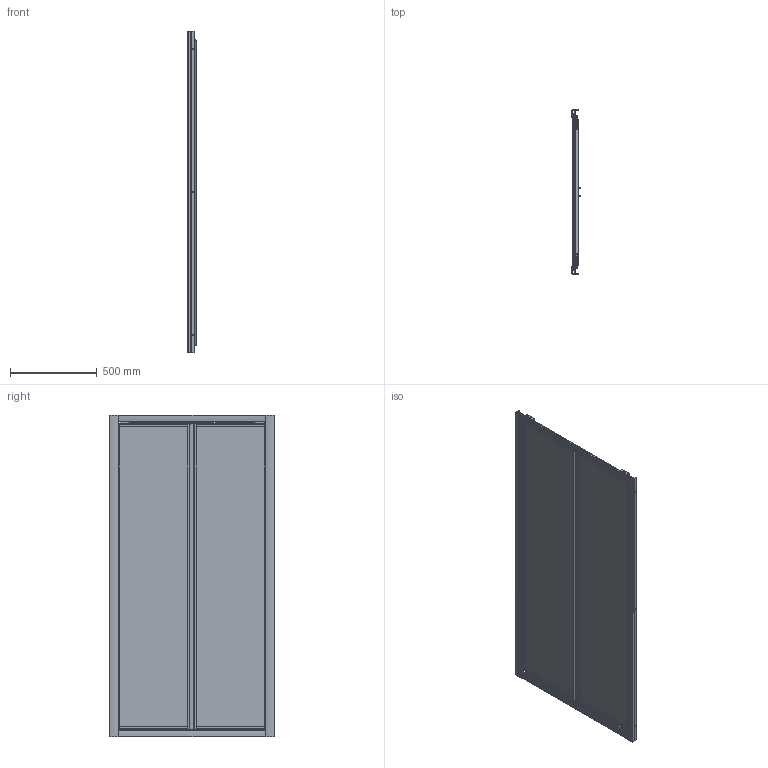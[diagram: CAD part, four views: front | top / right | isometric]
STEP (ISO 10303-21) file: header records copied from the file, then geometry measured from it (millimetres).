
FILE_DESCRIPTION(/* description */ (''),/* implementation_level */ '2;1');
FILE_NAME(/* name */ 'C:\Users\benassi\Desktop\dwg 3D\America tre 2019\America 3 saloon 95-103.stp',/* time_stamp */ '2018-07-17T14:26:56+02:00',/* author */ ('benassi'),/* organization */ (''),/* preprocessor_version */ 'ST-DEVELOPER v16.1',/* originating_system */ 'Autodesk Inventor 2016',/* authorisation */ '');
FILE_SCHEMA (('AUTOMOTIVE_DESIGN { 1 0 10303 214 3 1 1 }'));
Length unit declared in the file: millimetre
Products named in the file (25): 10000021304; 10000008458; 10000008457; 10000004703_IPT_000; 10000021106; 10000021499; 10000008479; 10000008478; 4-0223; 4-0223_1; 10000013432; 10000013433; 10000013434; VITE TC 2,9-38; ISO 7049 - ST3,5 x 22 - C - H; 10000000386_IPT_000; 10000021505; 10000021502; 10000008475; 10000009408; 09030013; 10000000286_IPT_000; ISO 7049 - ST3,5 x 16 - C - H; 09030013_1; 10000021498
Assembly tree (58 placements, depth 3):
  10000021498
    10000021304  x2
    10000008458  x2
    10000008457  x2
    10000004703_IPT_000  x2
    10000021106  x2
    10000021499  x2
    10000008479  x2
    10000008478  x2
    4-0223
    4-0223_1
    10000013434  x4
      10000013432
      10000013433
    VITE TC 2,9-38  x4
    ISO 7049 - ST3,5 x 22 - C - H  x8
    10000000386_IPT_000  x4
    10000021505  x2
    10000021502  x4
    10000008475  x2
    10000009408  x2
    09030013
    10000000286_IPT_000  x2
    ISO 7049 - ST3,5 x 16 - C - H  x4
    09030013_1
Bounding box: 48.85 x 949.58 x 1850 mm (x, y, z)
Volume: 6938538.9 mm3; surface area: 7354471 mm2
Topology: 60 solids, 60 shells, 2856 faces, 7958 edges, 5238 vertices
Faces by surface type: plane 1452, cylinder 1048, cone 216, torus 100, sphere 24, bspline 16
Full cylindrical faces by diameter (mm): 2.75 x16, 2.9 x4, 3.1 x4, 3.25 x2, 3.5 x28, 3.9 x4, 4 x12, 4.5 x4, 5 x6, 6.3 x4, 7.3 x4, 7.6 x8, 8 x8, 8.2 x4, 9 x4, 15 x4
Entity records: 41591 total; most frequent: CARTESIAN_POINT 8968, DIRECTION 6779, ORIENTED_EDGE 6574, EDGE_CURVE 3287, AXIS2_PLACEMENT_3D 2390, VERTEX_POINT 2191, LINE 1999, VECTOR 1999
